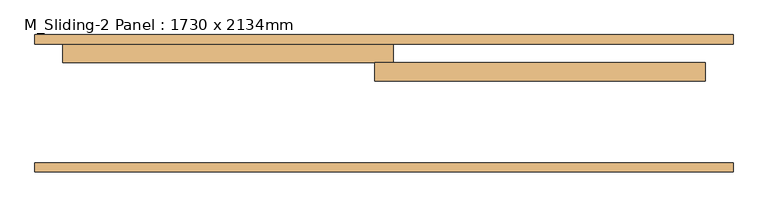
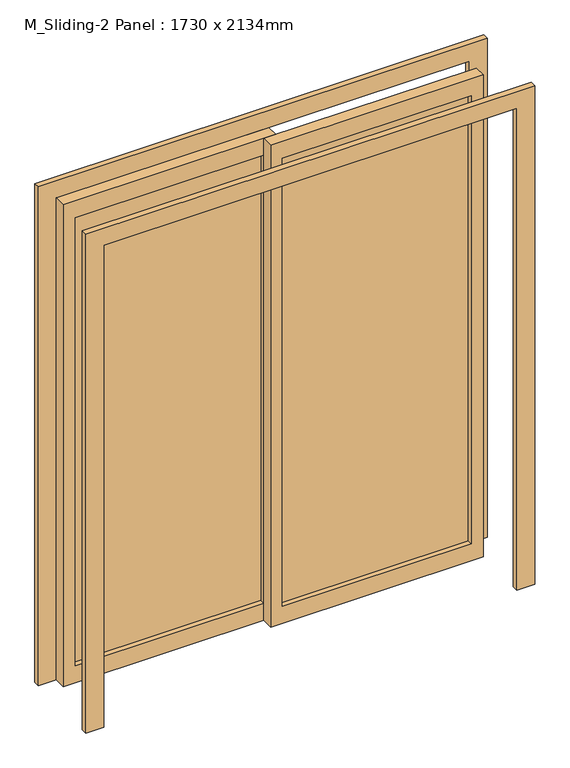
"""IFC4 building model written with IfcOpenShell, lengths in millimetres: door geometry, M_Sliding-2 Panel : 1730 x 2134mm."""

import ifcopenshell
import ifcopenshell.guid

model = None  # the IFC model being written
_history = None  # IfcOwnerHistory: only IFC2X3 demands one
_inside = {}  # id of a spatial element -> (the spatial element, [elements in it])
_under = {}  # id of a project, library or spatial element -> (it, [spatial elements below it])
_declared = {}  # id of a project -> (the project, [libraries it declares])
_typed = {}  # id of a type object -> (the type object, [elements of that type])
_made_of = {}  # id of a material, layer set ... -> (it, [elements and type objects made of it])


def new_model(schema):
    """Start an empty IFC model of exactly this schema.

    Asked for "IFC4X3", IfcOpenShell would pick the latest addendum, in which some entities
    have other attributes; the version numbers below select the first issue.
    IFC2X3 requires an IfcOwnerHistory on every rooted entity: one is made here for all.
    """
    global model, _history
    if schema == "IFC4X3":
        model = ifcopenshell.file(schema_version=(4, 3, 0, 0))
    else:
        model = ifcopenshell.file(schema=schema)
    _inside.clear()
    _under.clear()
    _declared.clear()
    _typed.clear()
    _made_of.clear()
    _history = None
    if model.schema == "IFC2X3":
        org = make("IfcOrganization", Name="unknown")
        user = make(
            "IfcPersonAndOrganization",
            ThePerson=make("IfcPerson", FamilyName="unknown"),
            TheOrganization=org,
        )
        app = make(
            "IfcApplication",
            ApplicationDeveloper=org,
            Version="unknown",
            ApplicationFullName="unknown",
            ApplicationIdentifier="unknown",
        )
        _history = make(
            "IfcOwnerHistory",
            OwningUser=user,
            OwningApplication=app,
            ChangeAction="ADDED",
            CreationDate=0,
        )
    return model


def make(cls, **values):
    """One entity of the class cls with the attributes given. An attribute that is None is left unset."""
    return model.create_entity(
        cls, **{name: value for name, value in values.items() if value is not None}
    )


def rooted(cls, **values):
    """An entity with a GlobalId (a new one), such as an element, a storey or a relation."""
    return make(cls, GlobalId=ifcopenshell.guid.new(), OwnerHistory=_history, **values)


def si_unit(unit_type, name, prefix=None):
    """IfcSIUnit, for example si_unit("LENGTHUNIT", "METRE", prefix="MILLI")."""
    return make("IfcSIUnit", UnitType=unit_type, Prefix=prefix, Name=name)


def assignment(units):
    """IfcUnitAssignment: the units of a project."""
    return None if units is None else make("IfcUnitAssignment", Units=units)


def point(xyz):
    """IfcCartesianPoint."""
    return None if xyz is None else make("IfcCartesianPoint", Coordinates=xyz)


def direction(xyz):
    """IfcDirection."""
    return None if xyz is None else make("IfcDirection", DirectionRatios=xyz)


def frame(location, z_axis=None, x_axis=None):
    """IfcAxis2Placement3D, a coordinate frame: its origin and axes. An axis left out is left unset."""
    return make(
        "IfcAxis2Placement3D",
        Location=point(location),
        Axis=direction(z_axis),
        RefDirection=direction(x_axis),
    )


def origin():
    """The frame at (0, 0, 0) with its axes left unset."""
    return frame((0.0, 0.0, 0.0))


def place(relative_to, where):
    """IfcLocalPlacement: puts the frame where relative to a parent placement (None: the world)."""
    return make(
        "IfcLocalPlacement", PlacementRelTo=relative_to, RelativePlacement=where
    )


def context(
    kind, dimensions, precision=None, world=None, true_north=None, identifier=None
):
    """IfcGeometricRepresentationContext, for example the 3D "Model" context."""
    return make(
        "IfcGeometricRepresentationContext",
        ContextIdentifier=identifier,
        ContextType=kind,
        CoordinateSpaceDimension=dimensions,
        Precision=precision,
        WorldCoordinateSystem=world,
        TrueNorth=true_north,
    )


def project(units=None, contexts=None):
    """IfcProject with its units and contexts."""
    return rooted(
        "IfcProject",
        Name="project",
        RepresentationContexts=contexts,
        UnitsInContext=assignment(units),
    )


def spatial(cls, under=None, at=None, **own):
    """A site, building, storey or space (cls), placed at a placement, below another one or the project."""
    s = rooted(cls, ObjectPlacement=at, **own)
    if under is not None:
        _under.setdefault(under.id(), (under, []))[1].append(s)
    return s


def polyline(points):
    """IfcPolyline through the points."""
    return make("IfcPolyline", Points=[point(p) for p in points])


def outline(outer, holes=None, kind="AREA"):
    """IfcArbitraryClosedProfileDef: a profile drawn as a closed curve; with holes, ...WithVoids."""
    if holes is None:
        return make("IfcArbitraryClosedProfileDef", ProfileType=kind, OuterCurve=outer)
    return make(
        "IfcArbitraryProfileDefWithVoids",
        ProfileType=kind,
        OuterCurve=outer,
        InnerCurves=holes,
    )


def extrude(swept, where, along, depth):
    """IfcExtrudedAreaSolid: the profile swept, set in the frame where, extruded along a direction by depth."""
    return make(
        "IfcExtrudedAreaSolid",
        SweptArea=swept,
        Position=where,
        ExtrudedDirection=direction(along),
        Depth=depth,
    )


def shape(context_of_items, identifier, shape_type, items):
    """IfcShapeRepresentation: the items that make up one representation, for example the "Body"."""
    return make(
        "IfcShapeRepresentation",
        ContextOfItems=context_of_items,
        RepresentationIdentifier=identifier,
        RepresentationType=shape_type,
        Items=items,
    )


def source(mapping_origin, context_of_items, identifier, shape_type, items):
    """IfcRepresentationMap: a shape defined once, which mapped items show again and again."""
    return make(
        "IfcRepresentationMap",
        MappingOrigin=mapping_origin,
        MappedRepresentation=shape(context_of_items, identifier, shape_type, items),
    )


def transform(
    local_origin,
    x_axis=None,
    y_axis=None,
    z_axis=None,
    scale=None,
    scale2=None,
    scale3=None,
    uniform=True,
):
    """IfcCartesianTransformationOperator3D, or its non-uniform kind. x_axis, y_axis, z_axis: its Axis1, 2, 3."""
    if uniform:
        return make(
            "IfcCartesianTransformationOperator3D",
            Axis1=direction(x_axis),
            Axis2=direction(y_axis),
            LocalOrigin=point(local_origin),
            Scale=scale,
            Axis3=direction(z_axis),
        )
    return make(
        "IfcCartesianTransformationOperator3DnonUniform",
        Axis1=direction(x_axis),
        Axis2=direction(y_axis),
        LocalOrigin=point(local_origin),
        Scale=scale,
        Axis3=direction(z_axis),
        Scale2=scale2,
        Scale3=scale3,
    )


def mapped(mapping_source, mapping_target):
    """IfcMappedItem: shows the shape of a source again, moved by a transform."""
    return make(
        "IfcMappedItem", MappingSource=mapping_source, MappingTarget=mapping_target
    )


def made_of(thing, what):
    """Note that an element or type object is made of a material, layer set ...; save() writes the relation."""
    if what is not None:
        _made_of.setdefault(what.id(), (what, []))[1].append(thing)
    return thing


def element(
    cls,
    number,
    at=None,
    inside=None,
    cuts=None,
    type_object=None,
    material=None,
    context=None,
    identifier="Body",
    shape_type=None,
    held_by="IfcProductDefinitionShape",
    body=None,
    shapes=None,
    **own,
):
    """One element of the class cls, such as IfcWall. Its Tag is "e" and its number.

    at: its placement. inside: the storey or other place that contains it. cuts: it is an
    opening in that element (IfcRelVoidsElement). A single representation is given by context,
    identifier, shape_type and body (its items); several are given by shapes. held_by: the class
    of the entity that holds the representations. save() writes the other relations.
    """
    e = rooted(cls, Tag="e%d" % number, ObjectPlacement=at, **own)
    if body is not None:
        shapes = [shape(context, identifier, shape_type, body)]
    if shapes is not None:
        e.Representation = make(held_by, Representations=shapes)
    if inside is not None:
        _inside.setdefault(inside.id(), (inside, []))[1].append(e)
    if cuts is not None:
        rooted(
            "IfcRelVoidsElement", RelatingBuildingElement=cuts, RelatedOpeningElement=e
        )
    if type_object is not None:
        _typed.setdefault(type_object.id(), (type_object, []))[1].append(e)
    return made_of(e, material)


def aggregate(whole, parts):
    """IfcRelAggregates: a whole, such as a stair, and the parts it consists of."""
    return rooted("IfcRelAggregates", RelatingObject=whole, RelatedObjects=parts)


def save(model, path):
    """Write the relations noted so far, then the file.

    IfcRelAggregates (storeys below a building ...), IfcRelContainedInSpatialStructure (elements
    in a storey), IfcRelDefinesByType, IfcRelAssociatesMaterial and IfcRelDeclares: one each for
    every whole, place, type object, material and project.
    """
    for whole, parts in _under.values():
        aggregate(whole, parts)
    for where, things in _inside.values():
        rooted(
            "IfcRelContainedInSpatialStructure",
            RelatedElements=things,
            RelatingStructure=where,
        )
    for kind, things in _typed.values():
        rooted("IfcRelDefinesByType", RelatedObjects=things, RelatingType=kind)
    for what, things in _made_of.values():
        rooted("IfcRelAssociatesMaterial", RelatedObjects=things, RelatingMaterial=what)
    for by, libraries in _declared.values():
        rooted("IfcRelDeclares", RelatingContext=by, RelatedDefinitions=libraries)
    model.write(path)


def m_sliding_2_panel_1730_x_2134mm_74c01970(model_context):
    return source(origin(), model_context, "Body", "SweptSolid", [
        extrude(outline(polyline([(25.4, 215.175), (815.0, 215.175), (815.0, 208.825), (25.4, 208.825), (25.4, 215.175)])), frame((0.0, 0.0, 75.0), z_axis=(0.0, 0.0, 1.0), x_axis=(1.0, 0.0, 0.0)), (0.0, 0.0, 1.0), 1984.0),
        extrude(outline(polyline([(2134.0, -25.4), (0.0, -25.4), (0.0, 865.0), (2134.0, 865.0), (2134.0, -25.4)]), holes=[polyline([(2059.0, 24.6), (2059.0, 815.0), (75.0, 815.0), (75.0, 24.6), (2059.0, 24.6)])]), frame((0.0, 187.0, 0.0), z_axis=(0.0, 1.0, 0.0), x_axis=(0.0, 0.0, 1.0)), (0.0, 0.0, 1.0), 50.0),
        extrude(outline(polyline([(-815.0, 265.175), (-24.6, 265.175), (-24.6, 258.825), (-815.0, 258.825), (-815.0, 265.175)])), frame((0.0, 0.0, 75.0), z_axis=(0.0, 0.0, 1.0), x_axis=(1.0, 0.0, 0.0)), (0.0, 0.0, 1.0), 1984.0),
        extrude(outline(polyline([(2134.0, 25.4), (2134.0, -865.0), (0.0, -865.0), (0.0, 25.4), (2134.0, 25.4)]), holes=[polyline([(2059.0, -24.6), (75.0, -24.6), (75.0, -815.0), (2059.0, -815.0), (2059.0, -24.6)])]), frame((0.0, 237.0, 0.0), z_axis=(0.0, 1.0, 0.0), x_axis=(0.0, 0.0, 1.0)), (0.0, 0.0, 1.0), 50.0),
        extrude(outline(polyline([(0.0, -940.0), (0.0, -865.0), (2134.0, -865.0), (2134.0, 865.0), (0.0, 865.0), (0.0, 940.0), (2209.0, 940.0), (2209.0, -940.0), (0.0, -940.0)])), frame((0.0, -58.0, 0.0), z_axis=(0.0, 1.0, 0.0), x_axis=(0.0, 0.0, 1.0)), (0.0, 0.0, 1.0), 25.0),
        extrude(outline(polyline([(0.0, 940.0), (2209.0, 940.0), (2209.0, -940.0), (0.0, -940.0), (0.0, -865.0), (2134.0, -865.0), (2134.0, 865.0), (0.0, 865.0), (0.0, 940.0)])), frame((0.0, 287.0, 0.0), z_axis=(0.0, 1.0, 0.0), x_axis=(0.0, 0.0, 1.0)), (0.0, 0.0, 1.0), 25.0),
    ])


if __name__ == "__main__":
    model = new_model("IFC4")
    model_context = context("Model", 3, world=origin())
    ifc_project = project(units=[si_unit("LENGTHUNIT", "METRE", prefix="MILLI")], contexts=[model_context])
    site = spatial("IfcSite", under=ifc_project)
    building = spatial("IfcBuilding", under=site)
    placement = place(None, origin())
    m_sliding_2_panel_1730_x_2134mm_shape = m_sliding_2_panel_1730_x_2134mm_74c01970(model_context)
    element("IfcDoor", 1, ObjectType="M_Sliding-2 Panel : 1730 x 2134mm", at=placement, inside=building, context=model_context, shape_type="MappedRepresentation", body=[
        mapped(m_sliding_2_panel_1730_x_2134mm_shape, transform((0.0, 0.0, 0.0), x_axis=(1.0, 0.0, 0.0), y_axis=(0.0, 1.0, 0.0), z_axis=(0.0, 0.0, 1.0))),
    ])
    save(model, "model.ifc")
